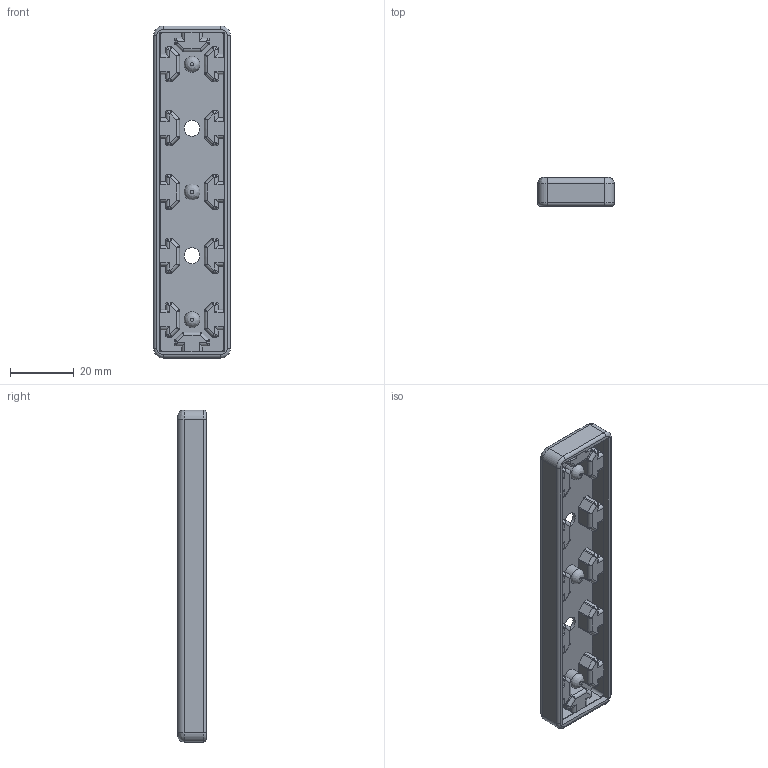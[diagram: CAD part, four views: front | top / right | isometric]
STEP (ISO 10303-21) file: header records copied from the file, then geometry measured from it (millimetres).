
FILE_DESCRIPTION(/* description */ (''),/* implementation_level */ '2;1');
FILE_NAME(/* name */ 'profile end cap.step',/* time_stamp */ '2025-06-16T02:20:19-07:00',/* author */ (''),/* organization */ (''),/* preprocessor_version */ 'ST-DEVELOPER v20.1',/* originating_system */ 'Autodesk Translation Framework v14.10.0.0',/* authorisation */ '');
FILE_SCHEMA (('AUTOMOTIVE_DESIGN { 1 0 10303 214 3 1 1 }'));
Length unit declared in the file: millimetre
Products named in the file (1): profile end cap
Bounding box: 24 x 9 x 104 mm (x, y, z)
Volume: 11289.2 mm3; surface area: 9714.2 mm2
Topology: 1 solids, 1 shells, 447 faces, 1122 edges, 612 vertices
Faces by surface type: cylinder 219, plane 141, bspline 79, torus 8
Full cylindrical faces by diameter (mm): 5 x5, 8 x2
Entity records: 14055 total; most frequent: CARTESIAN_POINT 3833, DIRECTION 2175, ORIENTED_EDGE 2100, EDGE_CURVE 1050, AXIS2_PLACEMENT_3D 780, LINE 615, VECTOR 615, VERTEX_POINT 612
